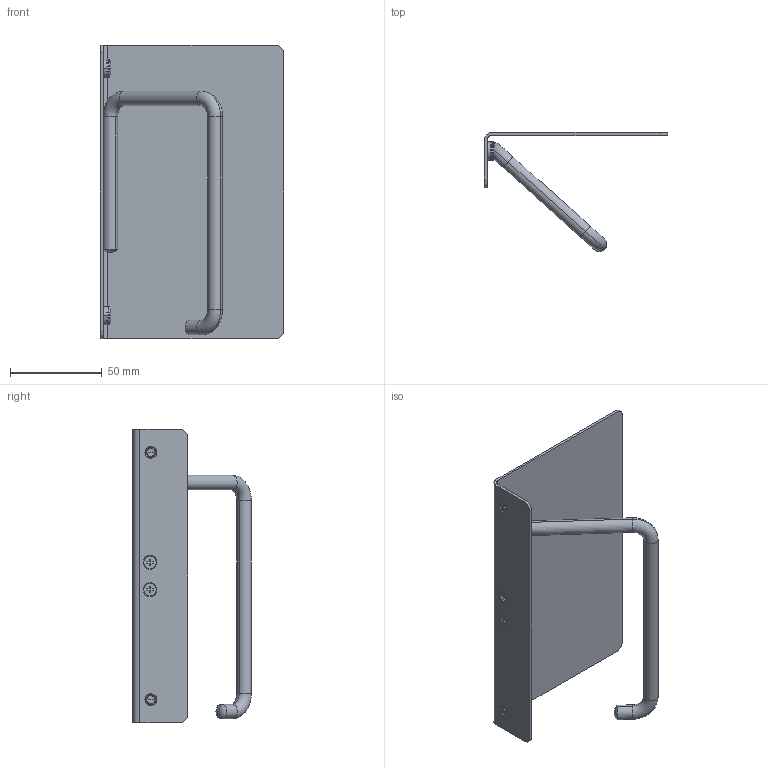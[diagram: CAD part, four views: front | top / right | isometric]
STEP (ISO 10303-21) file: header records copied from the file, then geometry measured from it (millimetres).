
FILE_DESCRIPTION((''),'2;1');
FILE_NAME('DZL8315-0000_ASM','2024-03-29T19:17:30',('Administrator'),(''),'CREO PARAMETRIC BY PTC INC, 2019471','CREO PARAMETRIC BY PTC INC, 2019471','');
FILE_SCHEMA(('CONFIG_CONTROL_DESIGN'));
Length unit declared in the file: millimetre
Products named in the file (6): L8135-DZ001; L8135-DZ002; M4X6; DZ8031-05; DZ8031-04; DZL8315-0000_ASM
Assembly tree (8 placements, depth 2):
  DZL8315-0000_ASM
    L8135-DZ001
    L8135-DZ002
    M4X6  x2
    DZ8031-05  x2
    DZ8031-04  x2
Bounding box: 100 x 64.83 x 160 mm (x, y, z)
Volume: 45281.1 mm3; surface area: 50545.7 mm2
Topology: 8 solids, 10 shells, 174 faces, 390 edges, 230 vertices
Faces by surface type: cylinder 58, plane 50, torus 34, cone 20, sphere 12
Entity records: 3476 total; most frequent: DIRECTION 648, CARTESIAN_POINT 632, ORIENTED_EDGE 504, AXIS2_PLACEMENT_3D 268, EDGE_CURVE 256, VERTEX_POINT 156, CIRCLE 136, EDGE_LOOP 132
